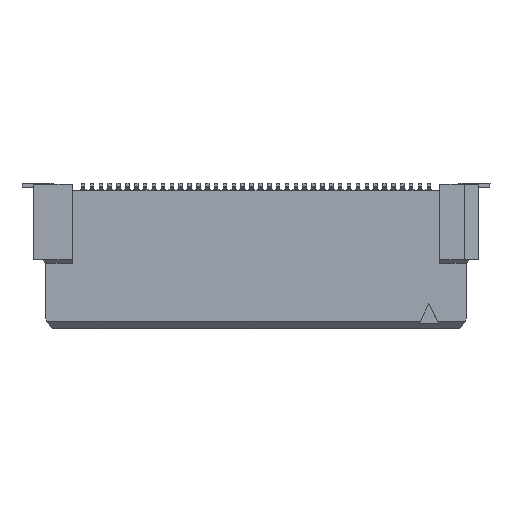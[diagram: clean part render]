
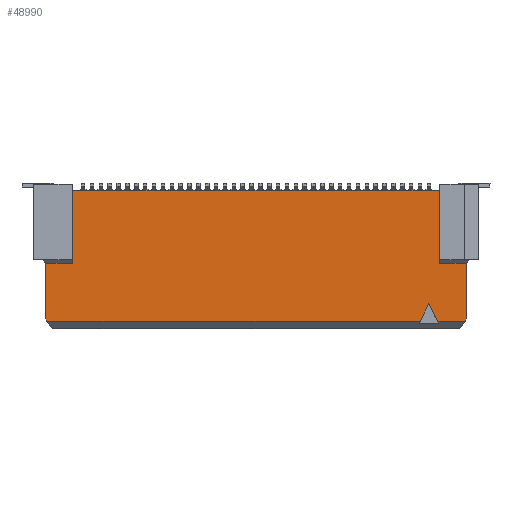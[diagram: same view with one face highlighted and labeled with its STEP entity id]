
A CAD part, front view. The second image highlights one B-rep face of the part: STEP entity #48990.
In plain terms, the highlighted planar face has unit normal (0, -1, 0).
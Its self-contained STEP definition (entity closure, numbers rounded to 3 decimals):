
#4080=CARTESIAN_POINT('',(23.522,1.44,
10.32));
#4090=VERTEX_POINT('',#4080);
#4880=CARTESIAN_POINT('',(23.522,1.44,
6.19));
#4890=VERTEX_POINT('',#4880);
#4920=CARTESIAN_POINT('',(23.522,1.44,
8.755));
#4930=DIRECTION('',(0.,0.,
1.));
#4940=VECTOR('',#4930,1.);
#4950=LINE('',#4920,#4940);
#4960=EDGE_CURVE('',#4890,#4090,#4950,.T.);
#8520=CARTESIAN_POINT('',(25.022,1.44,
6.19));
#8530=VERTEX_POINT('',#8520);
#8560=CARTESIAN_POINT('',(24.372,1.44,
6.19));
#8570=DIRECTION('',(-1.,0.,0.));
#8580=VECTOR('',#8570,1.);
#8590=LINE('',#8560,#8580);
#8600=EDGE_CURVE('',#8530,#4890,#8590,.T.);
#17630=CARTESIAN_POINT('',(25.022,1.44,
3.06));
#17640=VERTEX_POINT('',#17630);
#17670=CARTESIAN_POINT('',(25.022,1.44,
10.39));
#17680=DIRECTION('',(0.,0.,
1.));
#17690=VECTOR('',#17680,1.);
#17700=LINE('',#17670,#17690);
#17710=EDGE_CURVE('',#17640,#8530,#17700,.T.);
#24500=CARTESIAN_POINT('',(24.974,1.44,
2.91));
#24510=VERTEX_POINT('',#24500);
#24540=CARTESIAN_POINT('',(27.371,1.44,
10.39));
#24550=DIRECTION('',(-0.305,0.,
-0.952));
#24560=VECTOR('',#24550,1.);
#24570=LINE('',#24540,#24560);
#24580=EDGE_CURVE('',#17640,#24510,#24570,.T.);
#26900=CARTESIAN_POINT('',(22.912,1.44,
3.91));
#26910=VERTEX_POINT('',#26900);
#26940=CARTESIAN_POINT('',(20.49,1.44,
8.755));
#26950=DIRECTION('',(-0.447,0.,
0.894));
#26960=VECTOR('',#26950,1.);
#26970=LINE('',#26940,#26960);
#26980=CARTESIAN_POINT('',(23.412,1.44,
2.91));
#26990=VERTEX_POINT('',#26980);
#27000=EDGE_CURVE('',#26990,#26910,#26970,.T.);
#47410=CARTESIAN_POINT('',(22.412,1.44,
2.91));
#47420=VERTEX_POINT('',#47410);
#47450=CARTESIAN_POINT('',(25.335,1.44,
8.755));
#47460=DIRECTION('',(-0.447,0.,
-0.894));
#47470=VECTOR('',#47460,1.);
#47480=LINE('',#47450,#47470);
#47490=EDGE_CURVE('',#26910,#47420,#47480,.T.);
#47540=CARTESIAN_POINT('',(2.172,1.44,
2.91));
#47550=DIRECTION('',(0.,1.,
0.));
#47560=DIRECTION('',(0.,0.,
1.));
#47570=AXIS2_PLACEMENT_3D('',#47540,#47550,#47560);
#47580=PLANE('',#47570);
#47590=CARTESIAN_POINT('',(6.152,1.44,
2.91));
#47600=DIRECTION('',(1.,0.,0.));
#47610=VECTOR('',#47600,1.);
#47620=LINE('',#47590,#47610);
#47630=CARTESIAN_POINT('',(2.652,1.44,
2.91));
#47640=VERTEX_POINT('',#47630);
#47650=CARTESIAN_POINT('',(7.662,1.44,
2.91));
#47660=VERTEX_POINT('',#47650);
#47670=EDGE_CURVE('',#47640,#47660,#47620,.T.);
#47680=ORIENTED_EDGE('',*,*,#47670,.T.);
#47690=CARTESIAN_POINT('',(9.458,1.44,
2.91));
#47700=DIRECTION('',(1.,0.,0.));
#47710=VECTOR('',#47700,1.);
#47720=LINE('',#47690,#47710);
#47730=CARTESIAN_POINT('',(1.351,1.44,
2.91));
#47740=VERTEX_POINT('',#47730);
#47750=EDGE_CURVE('',#47740,#47640,#47720,.T.);
#47760=ORIENTED_EDGE('',*,*,#47750,.T.);
#47770=CARTESIAN_POINT('',(-1.046,1.44,
10.39));
#47780=DIRECTION('',(0.305,0.,
-0.952));
#47790=VECTOR('',#47780,1.);
#47800=LINE('',#47770,#47790);
#47810=CARTESIAN_POINT('',(1.302,1.44,
3.06));
#47820=VERTEX_POINT('',#47810);
#47830=EDGE_CURVE('',#47820,#47740,#47800,.T.);
#47840=ORIENTED_EDGE('',*,*,#47830,.T.);
#47850=CARTESIAN_POINT('',(1.302,1.44,
10.39));
#47860=DIRECTION('',(0.,0.,
1.));
#47870=VECTOR('',#47860,1.);
#47880=LINE('',#47850,#47870);
#47890=CARTESIAN_POINT('',(1.302,1.44,
6.19));
#47900=VERTEX_POINT('',#47890);
#47910=EDGE_CURVE('',#47820,#47900,#47880,.T.);
#47920=ORIENTED_EDGE('',*,*,#47910,.F.);
#47930=CARTESIAN_POINT('',(1.952,1.44,
6.19));
#47940=DIRECTION('',(1.,0.,0.));
#47950=VECTOR('',#47940,1.);
#47960=LINE('',#47930,#47950);
#47970=CARTESIAN_POINT('',(2.802,1.44,
6.19));
#47980=VERTEX_POINT('',#47970);
#47990=EDGE_CURVE('',#47900,#47980,#47960,.T.);
#48000=ORIENTED_EDGE('',*,*,#47990,.F.);
#48010=CARTESIAN_POINT('',(2.802,1.44,
8.755));
#48020=DIRECTION('',(0.,0.,
1.));
#48030=VECTOR('',#48020,1.);
#48040=LINE('',#48010,#48030);
#48050=CARTESIAN_POINT('',(2.802,1.44,
10.32));
#48060=VERTEX_POINT('',#48050);
#48070=EDGE_CURVE('',#47980,#48060,#48040,.T.);
#48080=ORIENTED_EDGE('',*,*,#48070,.F.);
#48090=CARTESIAN_POINT('',(2.652,1.44,
10.32));
#48100=DIRECTION('',(1.,0.,0.));
#48110=VECTOR('',#48100,1.);
#48120=LINE('',#48090,#48110);
#48130=CARTESIAN_POINT('',(3.162,1.44,
10.32));
#48140=VERTEX_POINT('',#48130);
#48150=EDGE_CURVE('',#48060,#48140,#48120,.T.);
#48160=ORIENTED_EDGE('',*,*,#48150,.F.);
#48170=CARTESIAN_POINT('',(-15.088,1.44,
10.32));
#48180=DIRECTION('',(1.,0.,0.));
#48190=VECTOR('',#48180,1.);
#48200=LINE('',#48170,#48190);
#48210=CARTESIAN_POINT('',(6.662,1.44,
10.32));
#48220=VERTEX_POINT('',#48210);
#48230=EDGE_CURVE('',#48140,#48220,#48200,.T.);
#48240=ORIENTED_EDGE('',*,*,#48230,.F.);
#48250=CARTESIAN_POINT('',(-9.,1.44,
10.32));
#48260=DIRECTION('',(1.,0.,0.));
#48270=VECTOR('',#48260,1.);
#48280=LINE('',#48250,#48270);
#48290=CARTESIAN_POINT('',(7.662,1.44,
10.32));
#48300=VERTEX_POINT('',#48290);
#48310=EDGE_CURVE('',#48220,#48300,#48280,.T.);
#48320=ORIENTED_EDGE('',*,*,#48310,.F.);
#48330=CARTESIAN_POINT('',(-39.,1.44,
10.32));
#48340=DIRECTION('',(1.,0.,0.));
#48350=VECTOR('',#48340,1.);
#48360=LINE('',#48330,#48350);
#48370=CARTESIAN_POINT('',(13.162,1.44,
10.32));
#48380=VERTEX_POINT('',#48370);
#48390=EDGE_CURVE('',#48300,#48380,#48360,.T.);
#48400=ORIENTED_EDGE('',*,*,#48390,.F.);
#48410=CARTESIAN_POINT('',(-9.,1.44,
10.32));
#48420=DIRECTION('',(1.,0.,0.));
#48430=VECTOR('',#48420,1.);
#48440=LINE('',#48410,#48430);
#48450=CARTESIAN_POINT('',(19.162,1.44,
10.32));
#48460=VERTEX_POINT('',#48450);
#48470=EDGE_CURVE('',#48380,#48460,#48440,.T.);
#48480=ORIENTED_EDGE('',*,*,#48470,.F.);
#48490=CARTESIAN_POINT('',(-2.588,1.44,
10.32));
#48500=DIRECTION('',(1.,0.,0.));
#48510=VECTOR('',#48500,1.);
#48520=LINE('',#48490,#48510);
#48530=CARTESIAN_POINT('',(23.162,1.44,
10.32));
#48540=VERTEX_POINT('',#48530);
#48550=EDGE_CURVE('',#48460,#48540,#48520,.T.);
#48560=ORIENTED_EDGE('',*,*,#48550,.F.);
#48570=CARTESIAN_POINT('',(23.672,1.44,
10.32));
#48580=DIRECTION('',(-1.,0.,0.));
#48590=VECTOR('',#48580,1.);
#48600=LINE('',#48570,#48590);
#48610=EDGE_CURVE('',#4090,#48540,#48600,.T.);
#48620=ORIENTED_EDGE('',*,*,#48610,.T.);
#48630=ORIENTED_EDGE('',*,*,#4960,.T.);
#48640=ORIENTED_EDGE('',*,*,#8600,.T.);
#48650=ORIENTED_EDGE('',*,*,#17710,.T.);
#48660=ORIENTED_EDGE('',*,*,#24580,.F.);
#48670=CARTESIAN_POINT('',(16.867,1.44,
2.91));
#48680=DIRECTION('',(-1.,0.,0.));
#48690=VECTOR('',#48680,1.);
#48700=LINE('',#48670,#48690);
#48710=CARTESIAN_POINT('',(23.672,1.44,
2.91));
#48720=VERTEX_POINT('',#48710);
#48730=EDGE_CURVE('',#24510,#48720,#48700,.T.);
#48740=ORIENTED_EDGE('',*,*,#48730,.F.);
#48750=CARTESIAN_POINT('',(-2.348,1.44,
2.91));
#48760=DIRECTION('',(1.,0.,0.));
#48770=VECTOR('',#48760,1.);
#48780=LINE('',#48750,#48770);
#48790=EDGE_CURVE('',#26990,#48720,#48780,.T.);
#48800=ORIENTED_EDGE('',*,*,#48790,.T.);
#48810=ORIENTED_EDGE('',*,*,#27000,.F.);
#48820=ORIENTED_EDGE('',*,*,#47490,.F.);
#48830=CARTESIAN_POINT('',(6.152,1.44,
2.91));
#48840=DIRECTION('',(1.,0.,0.));
#48850=VECTOR('',#48840,1.);
#48860=LINE('',#48830,#48850);
#48870=CARTESIAN_POINT('',(13.162,1.44,
2.91));
#48880=VERTEX_POINT('',#48870);
#48890=EDGE_CURVE('',#48880,#47420,#48860,.T.);
#48900=ORIENTED_EDGE('',*,*,#48890,.T.);
#48910=CARTESIAN_POINT('',(-23.848,1.44,
2.91));
#48920=DIRECTION('',(1.,0.,0.));
#48930=VECTOR('',#48920,1.);
#48940=LINE('',#48910,#48930);
#48950=EDGE_CURVE('',#47660,#48880,#48940,.T.);
#48960=ORIENTED_EDGE('',*,*,#48950,.T.);
#48970=EDGE_LOOP('',(#48960,#48900,#48820,#48810,#48800,#48740,#48660,
#48650,#48640,#48630,#48620,#48560,#48480,#48400,#48320,#48240,#48160,
#48080,#48000,#47920,#47840,#47760,#47680));
#48980=FACE_OUTER_BOUND('',#48970,.T.);
#48990=ADVANCED_FACE('',(#48980),#47580,.F.);
